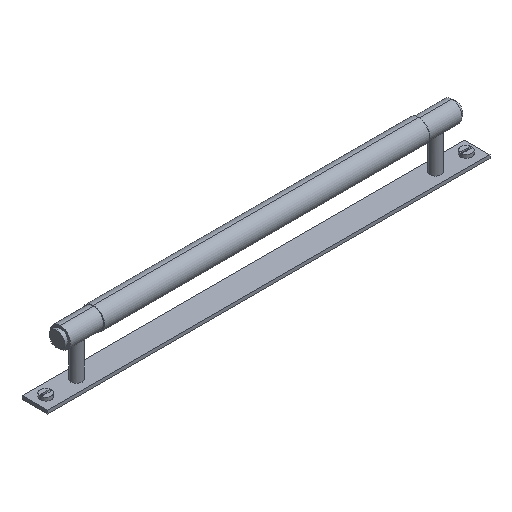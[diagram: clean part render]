
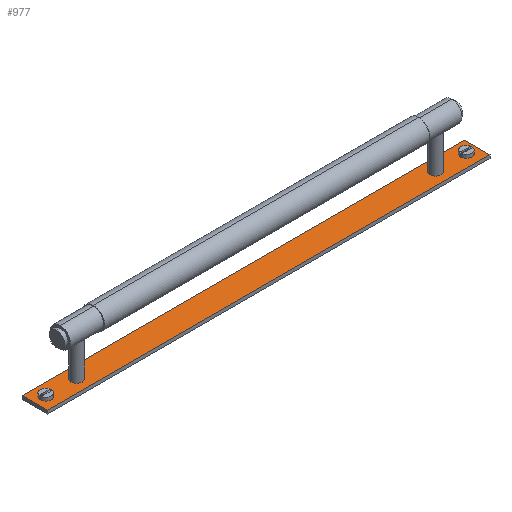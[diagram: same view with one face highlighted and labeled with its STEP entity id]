
A CAD part, isometric view. The second image highlights one B-rep face of the part: STEP entity #977.
In plain terms, the highlighted planar face has unit normal (0, 0, 1).
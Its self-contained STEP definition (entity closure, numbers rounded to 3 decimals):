
#4 = DIRECTION ( 'NONE',  ( -1., 0., 0. ) ) ;
#15 = CIRCLE ( 'NONE', #527, 5. ) ;
#17 = DIRECTION ( 'NONE',  ( -1., 0., 0. ) ) ;
#31 = VERTEX_POINT ( 'NONE', #479 ) ;
#33 = VERTEX_POINT ( 'NONE', #598 ) ;
#65 = DIRECTION ( 'NONE',  ( 0., 0., -1. ) ) ;
#80 = CARTESIAN_POINT ( 'NONE',  ( 167.25, 0., -40. ) ) ;
#82 = CARTESIAN_POINT ( 'NONE',  ( 162.25, 0., -40. ) ) ;
#110 = DIRECTION ( 'NONE',  ( -1., 0., 0. ) ) ;
#131 = AXIS2_PLACEMENT_3D ( 'NONE', #222, #484, #4 ) ;
#147 = FACE_BOUND ( 'NONE', #876, .T. ) ;
#158 = CARTESIAN_POINT ( 'NONE',  ( -200., -11.5, -40. ) ) ;
#162 = EDGE_LOOP ( 'NONE', ( #1109, #202 ) ) ;
#166 = CARTESIAN_POINT ( 'NONE',  ( 200., 11.5, -40. ) ) ;
#179 = DIRECTION ( 'NONE',  ( -1., 0., 0. ) ) ;
#194 = VECTOR ( 'NONE', #358, 1000. ) ;
#201 = CARTESIAN_POINT ( 'NONE',  ( -162.25, 0., -40. ) ) ;
#202 = ORIENTED_EDGE ( 'NONE', *, *, #504, .F. ) ;
#206 = CARTESIAN_POINT ( 'NONE',  ( -195., 0., -40. ) ) ;
#210 = DIRECTION ( 'NONE',  ( -1., 0., 0. ) ) ;
#213 = CARTESIAN_POINT ( 'NONE',  ( 157.25, 0., -40. ) ) ;
#214 = CARTESIAN_POINT ( 'NONE',  ( 195., 0., -40. ) ) ;
#220 = CIRCLE ( 'NONE', #633, 5. ) ;
#222 = CARTESIAN_POINT ( 'NONE',  ( 190., 0., -40. ) ) ;
#228 = EDGE_CURVE ( 'NONE', #936, #638, #1025, .T. ) ;
#238 = EDGE_LOOP ( 'NONE', ( #426, #1216, #453, #343 ) ) ;
#239 = VECTOR ( 'NONE', #468, 1000. ) ;
#245 = EDGE_CURVE ( 'NONE', #286, #31, #279, .T. ) ;
#252 = VERTEX_POINT ( 'NONE', #663 ) ;
#259 = CARTESIAN_POINT ( 'NONE',  ( 200., -11.5, -40. ) ) ;
#267 = LINE ( 'NONE', #953, #239 ) ;
#272 = AXIS2_PLACEMENT_3D ( 'NONE', #338, #1020, #432 ) ;
#279 = CIRCLE ( 'NONE', #320, 5. ) ;
#286 = VERTEX_POINT ( 'NONE', #1249 ) ;
#320 = AXIS2_PLACEMENT_3D ( 'NONE', #201, #505, #210 ) ;
#329 = CARTESIAN_POINT ( 'NONE',  ( 200., -11.5, -40. ) ) ;
#338 = CARTESIAN_POINT ( 'NONE',  ( 190., 0., -40. ) ) ;
#343 = ORIENTED_EDGE ( 'NONE', *, *, #642, .T. ) ;
#347 = EDGE_LOOP ( 'NONE', ( #677, #720 ) ) ;
#356 = ORIENTED_EDGE ( 'NONE', *, *, #1030, .T. ) ;
#358 = DIRECTION ( 'NONE',  ( 0., -1., 0. ) ) ;
#362 = VERTEX_POINT ( 'NONE', #206 ) ;
#367 = AXIS2_PLACEMENT_3D ( 'NONE', #678, #575, #17 ) ;
#374 = CIRCLE ( 'NONE', #367, 5. ) ;
#399 = EDGE_CURVE ( 'NONE', #638, #936, #412, .T. ) ;
#407 = AXIS2_PLACEMENT_3D ( 'NONE', #507, #683, #110 ) ;
#412 = CIRCLE ( 'NONE', #131, 5. ) ;
#426 = ORIENTED_EDGE ( 'NONE', *, *, #834, .T. ) ;
#432 = DIRECTION ( 'NONE',  ( -1., 0., 0. ) ) ;
#441 = EDGE_CURVE ( 'NONE', #33, #362, #374, .T. ) ;
#450 = ORIENTED_EDGE ( 'NONE', *, *, #763, .T. ) ;
#453 = ORIENTED_EDGE ( 'NONE', *, *, #718, .F. ) ;
#461 = CARTESIAN_POINT ( 'NONE',  ( -190., 0., -40. ) ) ;
#468 = DIRECTION ( 'NONE',  ( -1., 0., 0. ) ) ;
#470 = AXIS2_PLACEMENT_3D ( 'NONE', #461, #1149, #550 ) ;
#479 = CARTESIAN_POINT ( 'NONE',  ( -167.25, 0., -40. ) ) ;
#484 = DIRECTION ( 'NONE',  ( 0., 0., 1. ) ) ;
#485 = VERTEX_POINT ( 'NONE', #213 ) ;
#504 = EDGE_CURVE ( 'NONE', #31, #286, #561, .T. ) ;
#505 = DIRECTION ( 'NONE',  ( 0., 0., 1. ) ) ;
#507 = CARTESIAN_POINT ( 'NONE',  ( -162.25, 0., -40. ) ) ;
#527 = AXIS2_PLACEMENT_3D ( 'NONE', #82, #760, #179 ) ;
#534 = ORIENTED_EDGE ( 'NONE', *, *, #815, .T. ) ;
#550 = DIRECTION ( 'NONE',  ( -1., 0., 0. ) ) ;
#561 = CIRCLE ( 'NONE', #407, 5. ) ;
#575 = DIRECTION ( 'NONE',  ( 0., 0., -1. ) ) ;
#598 = CARTESIAN_POINT ( 'NONE',  ( -185., 0., -40. ) ) ;
#601 = FACE_BOUND ( 'NONE', #162, .T. ) ;
#613 = LINE ( 'NONE', #259, #194 ) ;
#633 = AXIS2_PLACEMENT_3D ( 'NONE', #637, #65, #741 ) ;
#637 = CARTESIAN_POINT ( 'NONE',  ( 162.25, 0., -40. ) ) ;
#638 = VERTEX_POINT ( 'NONE', #708 ) ;
#640 = CARTESIAN_POINT ( 'NONE',  ( -200., 11.5, -40. ) ) ;
#642 = EDGE_CURVE ( 'NONE', #1097, #748, #1170, .T. ) ;
#663 = CARTESIAN_POINT ( 'NONE',  ( 200., -11.5, -40. ) ) ;
#677 = ORIENTED_EDGE ( 'NONE', *, *, #399, .F. ) ;
#678 = CARTESIAN_POINT ( 'NONE',  ( -190., 0., -40. ) ) ;
#683 = DIRECTION ( 'NONE',  ( 0., 0., 1. ) ) ;
#708 = CARTESIAN_POINT ( 'NONE',  ( 185., 0., -40. ) ) ;
#718 = EDGE_CURVE ( 'NONE', #1097, #252, #613, .T. ) ;
#720 = ORIENTED_EDGE ( 'NONE', *, *, #228, .F. ) ;
#721 = VECTOR ( 'NONE', #1173, 1000. ) ;
#741 = DIRECTION ( 'NONE',  ( -1., 0., 0. ) ) ;
#743 = CARTESIAN_POINT ( 'NONE',  ( 200., 11.5, -40. ) ) ;
#748 = VERTEX_POINT ( 'NONE', #640 ) ;
#760 = DIRECTION ( 'NONE',  ( 0., 0., -1. ) ) ;
#763 = EDGE_CURVE ( 'NONE', #362, #33, #789, .T. ) ;
#789 = CIRCLE ( 'NONE', #470, 5. ) ;
#798 = VERTEX_POINT ( 'NONE', #80 ) ;
#809 = EDGE_CURVE ( 'NONE', #252, #1042, #267, .T. ) ;
#811 = ORIENTED_EDGE ( 'NONE', *, *, #441, .T. ) ;
#812 = DIRECTION ( 'NONE',  ( -1., 0., 0. ) ) ;
#815 = EDGE_CURVE ( 'NONE', #485, #798, #15, .T. ) ;
#825 = EDGE_LOOP ( 'NONE', ( #450, #811 ) ) ;
#834 = EDGE_CURVE ( 'NONE', #748, #1042, #984, .T. ) ;
#858 = FACE_BOUND ( 'NONE', #347, .T. ) ;
#876 = EDGE_LOOP ( 'NONE', ( #356, #534 ) ) ;
#891 = PLANE ( 'NONE',  #1223 ) ;
#895 = FACE_OUTER_BOUND ( 'NONE', #238, .T. ) ;
#910 = VECTOR ( 'NONE', #812, 1000. ) ;
#936 = VERTEX_POINT ( 'NONE', #214 ) ;
#953 = CARTESIAN_POINT ( 'NONE',  ( 200., -11.5, -40. ) ) ;
#977 = ADVANCED_FACE ( 'NONE', ( #1095, #147, #895, #601, #858 ), #891, .F. ) ;
#984 = LINE ( 'NONE', #1239, #721 ) ;
#995 = DIRECTION ( 'NONE',  ( 0., 0., -1. ) ) ;
#1020 = DIRECTION ( 'NONE',  ( 0., 0., 1. ) ) ;
#1025 = CIRCLE ( 'NONE', #272, 5. ) ;
#1030 = EDGE_CURVE ( 'NONE', #798, #485, #220, .T. ) ;
#1042 = VERTEX_POINT ( 'NONE', #158 ) ;
#1095 = FACE_BOUND ( 'NONE', #825, .T. ) ;
#1097 = VERTEX_POINT ( 'NONE', #166 ) ;
#1109 = ORIENTED_EDGE ( 'NONE', *, *, #245, .F. ) ;
#1149 = DIRECTION ( 'NONE',  ( 0., 0., -1. ) ) ;
#1170 = LINE ( 'NONE', #743, #910 ) ;
#1173 = DIRECTION ( 'NONE',  ( 0., -1., 0. ) ) ;
#1212 = DIRECTION ( 'NONE',  ( -1., 0., 0. ) ) ;
#1216 = ORIENTED_EDGE ( 'NONE', *, *, #809, .F. ) ;
#1223 = AXIS2_PLACEMENT_3D ( 'NONE', #329, #995, #1212 ) ;
#1239 = CARTESIAN_POINT ( 'NONE',  ( -200., -11.5, -40. ) ) ;
#1249 = CARTESIAN_POINT ( 'NONE',  ( -157.25, 0., -40. ) ) ;
